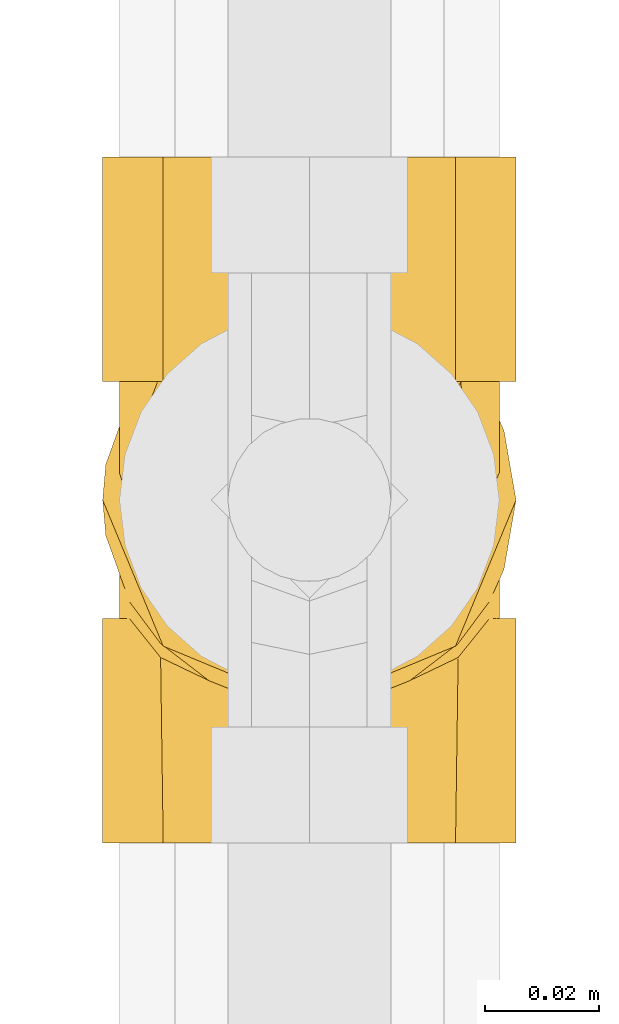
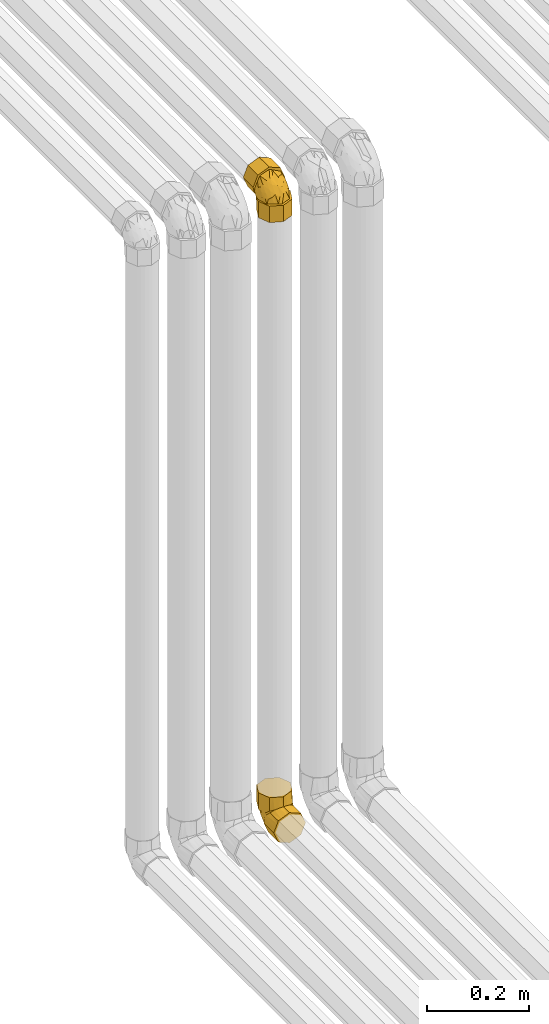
# One storey, part 241 of 652: 2 coverings.
"""IFC2X3 building model written with IfcOpenShell, lengths in millimetres."""

from ifc_helpers import new_model, entity, si_unit, converted_unit, direction, frame, origin, place, context, subcontext, project, spatial, faceted_brep, material, type_object, element, save


model = new_model("IFC2X3")

# Units and contexts
model_context = context("Model", 3, precision=0.01, world=frame((0.0, 0.0, 308426.39999999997)), true_north=direction((6.123233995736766e-17, 1.0)))
plan_context = context("Plan", 3, precision=0.01, world=frame((0.0, 0.0, 308426.39999999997)), true_north=direction((6.123233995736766e-17, 1.0)))
body_context = subcontext(model_context, "Body", "Model", "MODEL_VIEW")
ifc_project = project(units=[si_unit("LENGTHUNIT", "METRE", prefix="MILLI"), si_unit("AREAUNIT", "SQUARE_METRE"), si_unit("VOLUMEUNIT", "CUBIC_METRE"), converted_unit("PLANEANGLEUNIT", "DEGREE", entity("IfcPlaneAngleMeasure", 0.017453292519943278), si_unit("PLANEANGLEUNIT", "RADIAN"), dimensions=[0, 0, 0, 0, 0, 0, 0])], contexts=[model_context, plan_context])

# Site, building, storey
site_placement = place(None, origin())
site = spatial("IfcSite", under=ifc_project, at=site_placement, Name="Default", CompositionType="ELEMENT")
building_placement = place(site_placement, origin())
building = spatial("IfcBuilding", under=site, at=building_placement, CompositionType="ELEMENT")
storey_placement = place(building_placement, frame((0.0, 0.0, 1730.6999999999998)))
storey = spatial("IfcBuildingStorey", under=building, at=storey_placement, Name="EG_Produktion_FFB", CompositionType="ELEMENT", Elevation=1730.6999999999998)

# Coverings
ifc_material = material(Name="Dämmung - Armaflex-Schlauch")
covering_type = type_object("IfcCoveringType", Name="Rohrdämmung außen:Armaflex-Schlauch", PredefinedType="INSULATION")
covering_1_placement = place(storey_placement, frame((76742.20272776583, 51600.23108173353, 3839.949249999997)))
element("IfcCovering", 1, at=covering_1_placement, inside=storey, type_object=covering_type, material=ifc_material, Name="Rohrdämmung außen:Armaflex-Schlauch", ObjectType="Rohrdämmung außen:Armaflex-Schlauch", PredefinedType="INSULATION", context=body_context, shape_type="Brep", body=[
    faceted_brep([(3.715783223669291, 58.588772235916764, 47.84268255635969), (6.296879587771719, 58.588772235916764, 42.2095037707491), (4.988212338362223, 58.588772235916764, 48.657406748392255), (4.509772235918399, 58.588772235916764, 55.221565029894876), (7.8789883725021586, 58.588772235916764, 62.98224402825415), (11.248204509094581, 58.588772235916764, 70.74292302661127), (13.864245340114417, 58.588772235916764, 76.76873209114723), (16.480286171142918, 58.588772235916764, 82.79454115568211), (27.138779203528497, 58.588772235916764, 86.80982431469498), (37.79727223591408, 58.588772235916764, 90.82510747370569), (44.42687530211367, 58.588772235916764, 87.38848086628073), (51.0564783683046, 58.588772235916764, 83.95185425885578), (57.686081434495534, 58.588772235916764, 80.51522765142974), (64.31568450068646, 58.588772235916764, 77.0786010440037), (66.42763594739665, 58.588772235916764, 70.25921848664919), (68.53958739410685, 58.588772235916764, 63.439835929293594), (71.08477223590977, 58.588772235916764, 55.221565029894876), (70.60633213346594, 58.588772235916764, 48.65740674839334), (69.29766488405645, 58.588772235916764, 42.2095037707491), (73.46326541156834, 58.588772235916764, 53.8441619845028), (73.99927223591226, 58.588772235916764, 60.05075000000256), (70.84694562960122, 58.588772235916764, 67.66113964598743), (68.69761208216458, 58.588772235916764, 72.85008984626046), (66.04678200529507, 58.588772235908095, 79.24975976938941), (63.39595192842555, 58.588772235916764, 85.64942969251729), (56.996282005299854, 58.588772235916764, 88.30025976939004), (50.59661208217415, 58.588772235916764, 90.95108984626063), (44.19694215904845, 58.588772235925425, 93.60191992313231), (37.79727223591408, 58.588772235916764, 96.25275000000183), (30.186882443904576, 58.588772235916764, 93.10042333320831), (24.99793238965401, 58.588772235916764, 90.95108984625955), (18.598262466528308, 58.588772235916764, 88.30025976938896), (12.198592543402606, 58.588772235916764, 85.64942969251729), (9.547762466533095, 58.588772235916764, 79.24975976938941), (6.896932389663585, 58.588772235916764, 72.85008984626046), (4.2461023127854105, 58.588772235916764, 66.4504199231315), (1.5952722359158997, 58.588772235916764, 60.05075000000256), (71.34844215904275, 97.84802223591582, 53.651080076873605), (68.69761208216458, 97.84802223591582, 47.25141015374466), (66.04678200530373, 97.84802223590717, 40.851740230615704), (63.39595192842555, 97.84802223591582, 34.45207030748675), (56.996282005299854, 97.84802223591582, 31.801240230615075), (50.59661208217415, 97.84802223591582, 29.150410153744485), (44.19694215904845, 97.84802223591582, 26.49958007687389), (37.79727223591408, 97.84802223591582, 23.848750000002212), (31.39760231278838, 97.84802223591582, 26.49958007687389), (24.99793238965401, 97.84802223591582, 29.150410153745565), (18.598262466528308, 97.84802223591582, 31.80124023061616), (12.198592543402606, 97.84802223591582, 34.45207030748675), (9.547762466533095, 97.84802223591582, 40.85174023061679), (6.896932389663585, 97.84802223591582, 47.25141015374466), (4.2461023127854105, 97.84802223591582, 53.651080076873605), (1.5952722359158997, 97.84802223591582, 60.05075000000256), (4.2461023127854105, 97.84802223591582, 66.4504199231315), (6.896932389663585, 97.84802223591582, 72.85008984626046), (9.547762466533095, 97.84802223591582, 79.24975976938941), (12.198592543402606, 97.84802223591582, 85.64942969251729), (22.576491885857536, 97.84802223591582, 89.94809634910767), (30.186882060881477, 97.84802223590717, 93.10042317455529), (37.79727223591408, 97.84802223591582, 96.25275000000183), (44.19694215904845, 97.84802223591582, 93.60191992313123), (50.596612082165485, 97.84802223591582, 90.95108984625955), (56.996282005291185, 97.84802223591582, 88.30025976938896), (63.39595192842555, 97.84802223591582, 85.64942969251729), (67.69461861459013, 97.84802223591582, 75.27153027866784), (70.84694542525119, 97.84802223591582, 67.6611401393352), (73.99927223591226, 97.84802223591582, 60.05075000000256), (63.85372723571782, 65.38133308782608, 34.918182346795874), (47.14326463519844, 72.7720807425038, 25.07594149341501), (55.41836482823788, 69.42134376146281, 28.426678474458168), (37.79727223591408, 73.99927223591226, 23.848750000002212), (11.740817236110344, 65.38133308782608, 34.918182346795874), (28.451279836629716, 72.7720807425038, 25.07594149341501), (20.176179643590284, 69.42134376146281, 28.426678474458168), (1.5952722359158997, 37.79727223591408, 39.25924999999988), (4.747598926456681, 30.18688238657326, 39.25924999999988), (6.896932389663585, 24.99793238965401, 39.25924999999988), (9.547762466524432, 18.598262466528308, 39.25924999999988), (12.198592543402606, 12.198592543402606, 39.25924999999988), (18.598262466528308, 9.547762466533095, 39.25924999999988), (24.99793238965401, 6.896932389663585, 39.25924999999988), (31.39760231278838, 4.2461023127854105, 39.25924999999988), (37.79727223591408, 1.5952722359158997, 39.25924999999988), (45.4076616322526, 4.747598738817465, 39.25924999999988), (50.59661208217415, 6.896932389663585, 39.25924999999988), (56.996282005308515, 9.547762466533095, 39.25924999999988), (63.39595192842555, 12.198592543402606, 39.25924999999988), (66.04678200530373, 18.598262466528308, 39.25924999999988), (68.69761208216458, 24.99793238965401, 39.25924999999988), (71.34844215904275, 31.39760231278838, 39.25924999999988), (73.99927223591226, 37.79727223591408, 39.25924999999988), (71.87921900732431, 50.00406166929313, 39.25924999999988), (69.29766488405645, 55.6385184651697, 39.25924999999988), (70.60633213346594, 49.190615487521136, 39.25924999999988), (71.08477223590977, 42.62645720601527, 39.25924999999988), (67.71445911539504, 34.866483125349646, 39.25924999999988), (64.34414599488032, 27.10650904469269, 39.25924999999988), (61.72519243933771, 21.076502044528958, 39.25924999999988), (59.10623888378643, 15.0464950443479, 39.25924999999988), (48.45175555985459, 11.034704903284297, 39.25924999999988), (37.79727223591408, 7.022914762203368, 39.25924999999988), (31.165885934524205, 10.462020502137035, 39.25924999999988), (24.534499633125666, 13.901126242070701, 39.25924999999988), (17.903113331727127, 17.340231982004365, 39.25924999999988), (11.271727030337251, 20.77933772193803, 39.25924999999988), (9.162676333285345, 27.59344458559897, 39.25924999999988), (7.0536256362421, 34.407551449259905, 39.25924999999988), (4.509772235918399, 42.62645720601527, 39.25924999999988), (4.988212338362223, 49.190615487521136, 39.25924999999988), (6.296879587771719, 55.6385184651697, 39.25924999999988), (2.131188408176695, 44.003339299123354, 39.25924999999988), (63.39595192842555, 12.198592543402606, 0.0), (53.01805201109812, 7.899925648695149, 0.0), (45.407662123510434, 4.747598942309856, 0.0), (37.79727223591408, 1.5952722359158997, 0.0), (31.39760231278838, 4.2461023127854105, 0.0), (24.99793238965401, 6.896932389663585, 0.0), (18.598262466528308, 9.547762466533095, 0.0), (12.198592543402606, 12.198592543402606, 0.0), (7.899925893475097, 22.5764918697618, 0.0), (4.74759906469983, 30.18688205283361, 0.0), (1.5952722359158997, 37.79727223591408, 0.0), (4.2461023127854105, 44.196942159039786, 0.0), (6.896932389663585, 50.59661208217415, 0.0), (9.547762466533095, 56.996282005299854, 0.0), (12.198592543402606, 63.395951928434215, 0.0), (18.598262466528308, 66.04678200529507, 0.0), (24.99793238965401, 68.69761208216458, 0.0), (31.39760231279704, 71.34844215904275, 0.0), (37.79727223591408, 73.99927223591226, 0.0), (44.19694215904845, 71.34844215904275, 0.0), (50.596612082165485, 68.69761208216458, 0.0), (56.996282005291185, 66.04678200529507, 0.0), (63.39595192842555, 63.395951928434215, 0.0), (66.04678200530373, 56.996282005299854, 0.0), (68.69761208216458, 50.59661208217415, 0.0), (71.34844215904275, 44.19694215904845, 0.0), (73.99927223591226, 37.79727223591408, 0.0), (71.34844215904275, 31.39760231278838, 0.0), (68.69761208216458, 24.99793238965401, 0.0), (66.04678200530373, 18.598262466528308, 0.0), (63.85736541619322, 62.926067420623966, 32.46931160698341), (11.737179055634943, 62.926067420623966, 32.46931160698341), (68.41675007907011, 48.63783883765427, 64.47336868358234), (70.09494488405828, 43.212707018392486, 53.5426004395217), (71.08477223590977, 49.4519327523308, 48.396089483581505), (71.0847722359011, 53.869566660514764, 51.696186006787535), (71.08477223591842, 46.151836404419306, 43.97845581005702), (68.18497914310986, 32.778469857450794, 49.26703766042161), (54.93584498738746, 31.698613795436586, 70.88332850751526), (47.55789547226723, 39.257675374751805, 80.75349698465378), (46.96971299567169, 24.028919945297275, 68.06292306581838), (61.16915130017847, 47.983256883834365, 76.42875537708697), (62.09740281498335, 38.319489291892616, 68.93531566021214), (65.36649404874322, 47.458254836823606, 70.34021869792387), (53.32066831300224, 18.316870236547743, 56.04623238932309), (61.51946830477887, 25.794875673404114, 56.37699654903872), (65.29725071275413, 30.41158195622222, 54.93184687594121), (54.89550280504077, 44.133258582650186, 79.86410623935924), (45.8214932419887, 14.797636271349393, 55.68952897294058), (37.79727223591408, 25.914115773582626, 71.9339064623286), (37.79727223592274, 44.343194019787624, 82.5888745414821), (37.79727223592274, 15.259148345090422, 53.50482934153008), (67.18830204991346, 38.59116402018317, 59.63531299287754), (4.509772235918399, 49.4519327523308, 48.396089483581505), (4.509772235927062, 53.86956666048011, 51.69618600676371), (4.509772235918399, 46.1518364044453, 43.97845581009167), (5.499665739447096, 44.311814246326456, 54.64187234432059), (13.497052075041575, 28.915937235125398, 59.532384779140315), (14.077594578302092, 41.47049120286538, 72.05589244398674), (10.298384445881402, 42.916409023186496, 67.43859640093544), (20.65892246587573, 26.95499830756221, 66.13891003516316), (22.28882336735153, 41.801558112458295, 79.54021097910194), (28.624479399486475, 29.76882355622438, 73.80443609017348), (29.784989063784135, 42.11864888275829, 83.03128998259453), (7.409619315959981, 48.5811688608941, 65.06981549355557), (28.033804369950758, 17.083981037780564, 58.57206984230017), (14.417993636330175, 21.42594220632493, 49.8617772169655), (10.227732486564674, 27.50745100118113, 50.38826994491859), (20.692178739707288, 17.983898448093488, 53.706335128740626), (7.176889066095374, 33.37826549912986, 49.21182368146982), (8.406458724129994, 38.212411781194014, 59.257135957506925)], [[[0, 1, 2, 3, 4, 5, 6, 7, 8, 9, 10, 11, 12, 13, 14, 15, 16, 17, 18, 19, 20, 21, 22, 23, 24, 25, 26, 27, 28, 29, 30, 31, 32, 33, 34, 35, 36]], [[37, 38, 39, 40, 41, 42, 43, 44, 45, 46, 47, 48, 49, 50, 51, 52, 53, 54, 55, 56, 57, 58, 59, 60, 61, 62, 63, 64, 65, 66]], [[41, 40, 67]], [[39, 67, 40]], [[67, 39, 18]], [[68, 42, 69]], [[69, 42, 41]], [[69, 41, 67]], [[38, 19, 18]], [[20, 19, 66]], [[43, 70, 44]], [[19, 38, 37, 66]], [[43, 42, 68]], [[70, 43, 68]], [[39, 38, 18]], [[66, 65, 64, 63, 24, 23, 22, 21, 20]], [[24, 63, 62, 61, 60, 59, 28, 27, 26, 25]], [[29, 28, 59, 58, 57, 56, 32, 31, 30]], [[32, 56, 55, 54, 53, 52, 36, 35, 34, 33]], [[71, 1, 49]], [[0, 50, 1]], [[1, 50, 49]], [[72, 46, 45]], [[71, 49, 48]], [[47, 71, 48]], [[36, 51, 0]], [[70, 45, 44]], [[51, 50, 0]], [[73, 46, 72]], [[71, 47, 73]], [[45, 70, 72]], [[51, 36, 52]], [[47, 46, 73]], [[74, 75, 76, 77, 78, 79, 80, 81, 82, 83, 84, 85, 86, 87, 88, 89, 90, 91, 92, 93, 94, 95, 96, 97, 98, 99, 100, 101, 102, 103, 104, 105, 106, 107, 108, 109, 110]], [[111, 112, 113, 114, 115, 116, 117, 118, 119, 120, 121, 122, 123, 124, 125, 126, 127, 128, 129, 130, 131, 132, 133, 134, 135, 136, 137, 138, 139, 140]], [[114, 113, 112, 111, 86, 85, 84, 83, 82]], [[86, 111, 140, 139, 138, 137, 90, 89, 88, 87]], [[141, 92, 134]], [[91, 135, 92]], [[68, 131, 130]], [[134, 133, 141]], [[132, 141, 133]], [[136, 135, 91]], [[90, 136, 91]], [[70, 130, 129]], [[136, 90, 137]], [[69, 131, 68]], [[141, 132, 69]], [[130, 70, 68]], [[92, 135, 134]], [[132, 131, 69]], [[126, 125, 142]], [[124, 142, 125]], [[142, 124, 109]], [[72, 127, 73]], [[73, 127, 126]], [[73, 126, 142]], [[123, 110, 109]], [[74, 110, 121]], [[128, 70, 129]], [[110, 123, 122, 121]], [[128, 127, 72]], [[70, 128, 72]], [[124, 123, 109]], [[75, 74, 121, 120, 119, 118, 78, 77, 76]], [[78, 118, 117, 116, 115, 114, 82, 81, 80, 79]], [[15, 143, 144]], [[144, 145, 146, 16]], [[144, 94, 147, 145]], [[96, 95, 148]], [[149, 150, 151]], [[152, 153, 154]], [[149, 155, 156]], [[153, 156, 157]], [[152, 158, 153]], [[16, 15, 144]], [[151, 159, 155]], [[96, 148, 157]], [[151, 155, 149]], [[153, 149, 156]], [[156, 97, 157]], [[160, 159, 151]], [[98, 156, 155]], [[99, 98, 155]], [[160, 150, 161]], [[99, 159, 100]], [[159, 160, 162, 100]], [[160, 151, 150]], [[150, 11, 10]], [[150, 149, 158]], [[10, 161, 150]], [[9, 161, 10]], [[99, 155, 159]], [[143, 15, 14]], [[152, 13, 12]], [[158, 12, 11]], [[150, 158, 11]], [[153, 158, 149]], [[158, 152, 12]], [[154, 163, 143]], [[154, 143, 14]], [[154, 13, 152]], [[143, 163, 144]], [[148, 144, 163]], [[94, 144, 95]], [[154, 14, 13]], [[163, 154, 153]], [[144, 148, 95]], [[157, 148, 163]], [[153, 157, 163]], [[156, 98, 97]], [[96, 157, 97]], [[18, 17, 145]], [[67, 141, 69]], [[141, 67, 18]], [[17, 16, 146, 145]], [[147, 94, 93, 145]], [[141, 18, 92]], [[93, 92, 145]], [[92, 18, 145]], [[164, 1, 109]], [[2, 164, 165, 3]], [[164, 2, 1]], [[1, 71, 142]], [[142, 109, 1]], [[108, 107, 166, 164]], [[108, 164, 109]], [[142, 71, 73]], [[107, 106, 167]], [[168, 169, 170]], [[171, 172, 169]], [[173, 172, 171]], [[167, 164, 166, 107]], [[173, 174, 172]], [[175, 170, 5]], [[168, 171, 169]], [[167, 3, 165, 164]], [[176, 173, 171]], [[177, 168, 178]], [[5, 4, 175]], [[177, 179, 168]], [[106, 180, 167]], [[169, 6, 170]], [[160, 174, 173]], [[7, 169, 172]], [[8, 7, 172]], [[160, 176, 162]], [[8, 174, 9]], [[174, 160, 161, 9]], [[160, 173, 176]], [[176, 102, 101]], [[176, 171, 179]], [[101, 162, 176]], [[100, 162, 101]], [[8, 172, 174]], [[180, 106, 105]], [[177, 104, 103]], [[179, 103, 102]], [[176, 179, 102]], [[168, 179, 171]], [[179, 177, 103]], [[178, 181, 180]], [[178, 180, 105]], [[178, 104, 177]], [[180, 181, 167]], [[175, 167, 181]], [[3, 167, 4]], [[178, 105, 104]], [[181, 178, 168]], [[167, 175, 4]], [[170, 175, 181]], [[168, 170, 181]], [[169, 7, 6]], [[5, 170, 6]]]),
])
covering_2_placement = place(storey_placement, frame((76742.20272776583, 51577.97760396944, 2362.2027277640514)))
element("IfcCovering", 2, at=covering_2_placement, inside=storey, type_object=covering_type, material=ifc_material, Name="Rohrdämmung außen:Armaflex-Schlauch", ObjectType="Rohrdämmung außen:Armaflex-Schlauch", PredefinedType="INSULATION", context=body_context, shape_type="Brep", body=[
    faceted_brep([(3.7153254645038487, 39.259249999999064, 50.004061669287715), (6.296879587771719, 39.259249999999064, 55.63851846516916), (4.988212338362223, 39.259249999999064, 49.19061548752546), (4.509772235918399, 39.259249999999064, 42.62645720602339), (7.8789883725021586, 39.259249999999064, 34.865778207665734), (11.248204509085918, 39.259249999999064, 27.105099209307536), (13.864245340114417, 39.259249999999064, 21.079290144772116), (16.480286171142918, 39.259249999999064, 15.053481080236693), (27.138779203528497, 39.259249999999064, 11.038197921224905), (37.79727223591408, 39.259249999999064, 7.022914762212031), (44.42865853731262, 39.259249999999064, 10.46202050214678), (51.060044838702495, 39.259249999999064, 13.901126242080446), (57.69143114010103, 39.25925000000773, 17.340231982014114), (64.32281744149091, 39.259249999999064, 20.779337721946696), (66.43186809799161, 39.259249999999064, 27.59344445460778), (68.54091875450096, 39.259249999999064, 34.407551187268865), (71.08477223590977, 39.259249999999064, 42.62645720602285), (70.60633213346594, 39.259249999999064, 49.19061548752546), (69.29766488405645, 39.259249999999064, 55.63851846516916), (73.46335606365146, 39.259249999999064, 44.00333929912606), (73.99927223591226, 39.259249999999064, 37.797272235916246), (70.84694562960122, 39.259249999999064, 30.186882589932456), (68.69761208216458, 39.259249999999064, 24.99793238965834), (66.04678200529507, 39.2592499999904, 18.59826246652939), (63.39595192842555, 39.259249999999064, 12.19859254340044), (56.996282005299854, 39.259249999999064, 9.547762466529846), (50.59661208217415, 39.259249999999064, 6.896932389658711), (44.19694215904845, 39.25925000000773, 4.246102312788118), (37.79727223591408, 39.259249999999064, 1.5952722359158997), (30.186882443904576, 39.259249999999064, 4.747598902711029), (24.99793238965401, 39.259249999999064, 6.89693238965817), (18.598262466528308, 39.259249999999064, 9.547762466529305), (12.198592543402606, 39.259249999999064, 12.19859254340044), (9.547762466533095, 39.259249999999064, 18.59826246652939), (6.896932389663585, 39.259249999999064, 24.99793238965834), (4.2461023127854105, 39.259249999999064, 31.397602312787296), (1.5952722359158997, 39.259249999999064, 37.797272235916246), (63.39595192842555, 0.0, 63.39595192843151), (56.996282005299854, 0.0, 66.04678200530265), (50.59661208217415, 0.0, 68.69761208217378), (44.19694215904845, 0.0, 71.34844215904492), (37.79727223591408, 0.0, 73.99927223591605), (31.39760231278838, 0.0, 71.34844215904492), (24.99793238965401, 0.0, 68.69761208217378), (18.598262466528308, 0.0, 66.04678200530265), (12.198592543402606, 0.0, 63.39595192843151), (9.547762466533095, 0.0, 56.9962820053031), (6.896932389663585, 0.0, 50.59661208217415), (4.2461023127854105, 0.0, 44.1969421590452), (1.5952722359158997, 0.0, 37.797272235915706), (4.2461023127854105, 0.0, 31.397602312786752), (6.896932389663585, 0.0, 24.99793238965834), (9.547762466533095, 0.0, 18.59826246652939), (12.198592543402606, 0.0, 12.19859254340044), (22.576491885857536, 0.0, 7.899925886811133), (30.186882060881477, 0.0, 4.747599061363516), (37.79727223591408, 0.0, 1.5952722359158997), (44.19694215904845, 0.0, 4.246102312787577), (50.596612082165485, 0.0, 6.89693238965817), (56.996282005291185, 0.0, 9.547762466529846), (63.39595192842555, 0.0, 12.19859254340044), (67.69461861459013, 0.0, 22.576491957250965), (70.84694542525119, 0.0, 30.18688209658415), (73.99927223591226, 0.0, 37.797272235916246), (71.34844215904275, 0.0, 44.1969421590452), (68.69761208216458, 0.0, 50.59661208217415), (66.04678200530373, 0.0, 56.99628200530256), (63.85372723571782, 32.46668914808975, 62.92983988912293), (47.14326463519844, 25.075941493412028, 72.77208074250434), (55.41836482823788, 28.426678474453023, 69.42134376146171), (37.79727223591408, 23.848750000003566, 73.99927223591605), (11.740817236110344, 32.46668914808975, 62.92983988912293), (28.451279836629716, 25.075941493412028, 72.7720807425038), (20.176179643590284, 28.426678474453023, 69.42134376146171), (1.5952722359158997, 60.05075000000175, 58.588772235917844), (4.747598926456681, 67.66113984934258, 58.588772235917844), (6.896932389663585, 72.85008984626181, 58.588772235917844), (9.547762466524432, 79.24975976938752, 58.588772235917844), (12.198592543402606, 85.64942969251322, 58.588772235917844), (18.598262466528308, 88.30025976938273, 58.588772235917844), (24.99793238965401, 90.95108984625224, 58.588772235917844), (31.39760231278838, 93.60191992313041, 58.588772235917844), (37.79727223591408, 96.25274999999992, 58.588772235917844), (45.4076616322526, 93.1004234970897, 58.588772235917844), (50.59661208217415, 90.95108984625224, 58.588772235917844), (56.996282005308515, 88.30025976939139, 58.588772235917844), (63.39595192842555, 85.64942969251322, 58.588772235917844), (66.04678200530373, 79.24975976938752, 58.588772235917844), (68.69761208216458, 72.85008984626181, 58.588772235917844), (71.34844215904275, 66.45041992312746, 58.588772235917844), (73.99927223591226, 60.05075000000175, 58.588772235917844), (71.87921900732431, 47.8439605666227, 58.588772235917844), (69.29766488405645, 42.20950377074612, 58.588772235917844), (70.60633213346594, 48.65740674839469, 58.588772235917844), (71.08477223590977, 55.22156502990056, 58.588772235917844), (67.71555619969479, 62.98224379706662, 58.588772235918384), (64.34634016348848, 70.74292256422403, 58.588772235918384), (61.73029923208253, 76.76873185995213, 58.588772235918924), (59.11425830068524, 82.79454115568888, 58.588772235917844), (48.455765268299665, 86.809824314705, 58.588772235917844), (37.79727223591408, 90.82510747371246, 58.588772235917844), (31.165885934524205, 87.3860017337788, 58.588772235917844), (24.534499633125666, 83.94689599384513, 58.588772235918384), (17.903113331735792, 80.50779025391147, 58.588772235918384), (11.271727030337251, 77.0686845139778, 58.588772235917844), (9.162676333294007, 70.25457765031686, 58.588772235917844), (7.0536256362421, 63.440470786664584, 58.588772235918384), (4.509772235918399, 55.22156502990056, 58.588772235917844), (4.988212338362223, 48.65740674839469, 58.588772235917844), (6.296879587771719, 42.20950377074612, 58.588772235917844), (2.131188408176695, 53.84468293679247, 58.588772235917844), (63.39595192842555, 85.64942969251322, 97.848022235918), (53.01805201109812, 89.94809658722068, 97.848022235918), (45.407662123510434, 93.10042329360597, 97.848022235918), (37.79727223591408, 96.25274999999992, 97.848022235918), (31.39760231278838, 93.60191992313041, 97.848022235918), (24.99793238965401, 90.95108984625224, 97.848022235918), (18.598262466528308, 88.30025976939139, 97.848022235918), (12.198592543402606, 85.64942969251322, 97.848022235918), (7.899925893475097, 75.27153036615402, 97.848022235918), (4.74759906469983, 67.66114018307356, 97.848022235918), (1.5952722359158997, 60.05075000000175, 97.848022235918), (4.2461023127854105, 53.65108007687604, 97.848022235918), (6.896932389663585, 47.25141015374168, 97.848022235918), (9.547762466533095, 40.851740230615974, 97.848022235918), (12.198592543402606, 34.45207030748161, 97.848022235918), (18.598262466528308, 31.8012402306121, 97.848022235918), (24.99793238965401, 29.150410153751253, 97.848022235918), (31.39760231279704, 26.499580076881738, 97.84802223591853), (37.79727223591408, 23.848750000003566, 97.848022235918), (44.19694215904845, 26.499580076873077, 97.848022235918), (50.596612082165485, 29.150410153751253, 97.848022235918), (56.996282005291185, 31.8012402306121, 97.848022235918), (63.39595192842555, 34.45207030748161, 97.848022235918), (66.04678200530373, 40.851740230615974, 97.848022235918), (68.69761208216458, 47.25141015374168, 97.848022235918), (71.34844215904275, 53.65108007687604, 97.848022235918), (73.99927223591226, 60.05075000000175, 97.848022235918), (71.34844215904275, 66.45041992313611, 97.848022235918), (68.69761208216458, 72.85008984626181, 97.848022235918), (66.04678200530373, 79.24975976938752, 97.848022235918), (63.85736541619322, 34.92195481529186, 65.37871062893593), (11.737179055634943, 34.92195481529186, 65.37871062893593), (68.41765541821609, 49.21182308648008, 33.378265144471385), (70.09487872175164, 54.64187267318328, 44.31181452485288), (71.08477223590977, 48.39608948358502, 49.45193275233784), (71.08477223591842, 43.978455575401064, 46.15183622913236), (71.08477223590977, 51.69618583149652, 53.869566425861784), (68.18492521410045, 65.06981473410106, 48.581167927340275), (54.93562179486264, 66.1389061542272, 26.954994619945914), (47.56074067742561, 58.572064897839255, 17.083978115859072), (46.97006507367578, 73.80443236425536, 29.768819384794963), (61.17655068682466, 49.861775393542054, 21.42594107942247), (62.0974921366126, 59.53238264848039, 28.915935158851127), (65.36681184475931, 50.388268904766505, 27.50745013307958), (53.30572130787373, 79.54020807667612, 41.801553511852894), (61.516950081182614, 72.0558906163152, 41.47048891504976), (65.29616009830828, 67.43859512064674, 42.91640746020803), (54.90236508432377, 53.70633184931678, 17.98389616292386), (45.809554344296, 83.03128765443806, 42.11864422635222), (37.79727223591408, 71.9339064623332, 25.914115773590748), (37.79727223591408, 53.5048282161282, 15.259147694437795), (37.79727223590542, 82.58887389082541, 44.34319289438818), (67.18808569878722, 59.25713481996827, 38.21241052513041), (4.509772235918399, 48.39608948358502, 49.45193275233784), (4.509772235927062, 43.97845557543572, 46.15183622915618), (4.509772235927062, 51.69618583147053, 53.86956642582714), (5.499665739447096, 53.5362079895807, 43.206149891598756), (13.497052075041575, 68.93208500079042, 38.31563745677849), (14.077594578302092, 56.377531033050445, 25.792129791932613), (10.298384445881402, 54.931613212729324, 30.409425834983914), (20.65892246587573, 70.89302392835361, 31.709112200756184), (22.28882336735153, 56.04646412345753, 18.307811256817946), (28.624479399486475, 68.07919867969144, 24.04358614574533), (29.784989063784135, 55.729373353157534, 14.816732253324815), (7.409619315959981, 49.26685337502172, 32.77820674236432), (28.033804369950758, 80.76404119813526, 39.27595239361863), (14.417993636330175, 76.4220800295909, 47.986245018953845), (10.227732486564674, 70.3405712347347, 47.459752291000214), (20.692178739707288, 79.86412378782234, 44.14168710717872), (7.176889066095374, 64.46975673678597, 48.63619855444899), (8.406458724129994, 59.635610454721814, 38.59088627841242)], [[[0, 1, 2, 3, 4, 5, 6, 7, 8, 9, 10, 11, 12, 13, 14, 15, 16, 17, 18, 19, 20, 21, 22, 23, 24, 25, 26, 27, 28, 29, 30, 31, 32, 33, 34, 35, 36]], [[37, 38, 39, 40, 41, 42, 43, 44, 45, 46, 47, 48, 49, 50, 51, 52, 53, 54, 55, 56, 57, 58, 59, 60, 61, 62, 63, 64, 65, 66]], [[38, 37, 67]], [[66, 67, 37]], [[67, 66, 18]], [[68, 39, 69]], [[69, 39, 38]], [[69, 38, 67]], [[65, 19, 18]], [[20, 19, 63]], [[40, 70, 41]], [[19, 65, 64, 63]], [[40, 39, 68]], [[70, 40, 68]], [[66, 65, 18]], [[63, 62, 61, 60, 24, 23, 22, 21, 20]], [[24, 60, 59, 58, 57, 56, 28, 27, 26, 25]], [[29, 28, 56, 55, 54, 53, 32, 31, 30]], [[32, 53, 52, 51, 50, 49, 36, 35, 34, 33]], [[71, 1, 46]], [[0, 47, 1]], [[1, 47, 46]], [[72, 43, 42]], [[71, 46, 45]], [[44, 71, 45]], [[36, 48, 0]], [[70, 42, 41]], [[48, 47, 0]], [[73, 43, 72]], [[71, 44, 73]], [[42, 70, 72]], [[48, 36, 49]], [[44, 43, 73]], [[74, 75, 76, 77, 78, 79, 80, 81, 82, 83, 84, 85, 86, 87, 88, 89, 90, 91, 92, 93, 94, 95, 96, 97, 98, 99, 100, 101, 102, 103, 104, 105, 106, 107, 108, 109, 110]], [[111, 112, 113, 114, 115, 116, 117, 118, 119, 120, 121, 122, 123, 124, 125, 126, 127, 128, 129, 130, 131, 132, 133, 134, 135, 136, 137, 138, 139, 140]], [[114, 113, 112, 111, 86, 85, 84, 83, 82]], [[86, 111, 140, 139, 138, 137, 90, 89, 88, 87]], [[141, 92, 134]], [[91, 135, 92]], [[68, 131, 130]], [[134, 133, 141]], [[132, 141, 133]], [[136, 135, 91]], [[90, 136, 91]], [[70, 130, 129]], [[136, 90, 137]], [[69, 131, 68]], [[141, 132, 69]], [[130, 70, 68]], [[92, 135, 134]], [[132, 131, 69]], [[126, 125, 142]], [[124, 142, 125]], [[142, 124, 109]], [[72, 127, 73]], [[73, 127, 126]], [[73, 126, 142]], [[123, 110, 109]], [[74, 110, 121]], [[128, 70, 129]], [[110, 123, 122, 121]], [[128, 127, 72]], [[70, 128, 72]], [[124, 123, 109]], [[75, 74, 121, 120, 119, 118, 78, 77, 76]], [[78, 118, 117, 116, 115, 114, 82, 81, 80, 79]], [[15, 143, 144]], [[144, 145, 146, 16]], [[144, 94, 147, 145]], [[96, 95, 148]], [[149, 150, 151]], [[152, 153, 154]], [[149, 155, 156]], [[153, 156, 157]], [[152, 158, 153]], [[16, 15, 144]], [[151, 159, 155]], [[96, 148, 157]], [[151, 155, 149]], [[153, 149, 156]], [[156, 97, 157]], [[160, 159, 151]], [[98, 156, 155]], [[99, 98, 155]], [[160, 150, 161]], [[99, 159, 100]], [[159, 160, 162, 100]], [[160, 151, 150]], [[150, 11, 10]], [[150, 149, 158]], [[10, 161, 150]], [[9, 161, 10]], [[99, 155, 159]], [[143, 15, 14]], [[152, 13, 12]], [[158, 12, 11]], [[150, 158, 11]], [[153, 158, 149]], [[158, 152, 12]], [[154, 163, 143]], [[154, 143, 14]], [[154, 13, 152]], [[143, 163, 144]], [[148, 144, 163]], [[94, 144, 95]], [[154, 14, 13]], [[163, 154, 153]], [[144, 148, 95]], [[157, 148, 163]], [[153, 157, 163]], [[156, 98, 97]], [[96, 157, 97]], [[18, 17, 145]], [[67, 141, 69]], [[141, 67, 18]], [[17, 16, 146, 145]], [[147, 94, 93, 145]], [[141, 18, 92]], [[93, 92, 145]], [[92, 18, 145]], [[164, 1, 109]], [[2, 164, 165, 3]], [[164, 2, 1]], [[1, 71, 142]], [[142, 109, 1]], [[108, 107, 166, 164]], [[108, 164, 109]], [[142, 71, 73]], [[107, 106, 167]], [[168, 169, 170]], [[171, 172, 169]], [[173, 172, 171]], [[167, 164, 166, 107]], [[173, 174, 172]], [[175, 170, 5]], [[168, 171, 169]], [[167, 3, 165, 164]], [[176, 173, 171]], [[177, 168, 178]], [[5, 4, 175]], [[177, 179, 168]], [[106, 180, 167]], [[169, 6, 170]], [[160, 174, 173]], [[7, 169, 172]], [[8, 7, 172]], [[160, 176, 162]], [[8, 174, 9]], [[174, 160, 161, 9]], [[160, 173, 176]], [[176, 102, 101]], [[176, 171, 179]], [[101, 162, 176]], [[100, 162, 101]], [[8, 172, 174]], [[180, 106, 105]], [[177, 104, 103]], [[179, 103, 102]], [[176, 179, 102]], [[168, 179, 171]], [[179, 177, 103]], [[178, 181, 180]], [[178, 180, 105]], [[178, 104, 177]], [[180, 181, 167]], [[175, 167, 181]], [[3, 167, 4]], [[178, 105, 104]], [[181, 178, 168]], [[167, 175, 4]], [[170, 175, 181]], [[168, 170, 181]], [[169, 7, 6]], [[5, 170, 6]]]),
])

save(model, "model.ifc")
